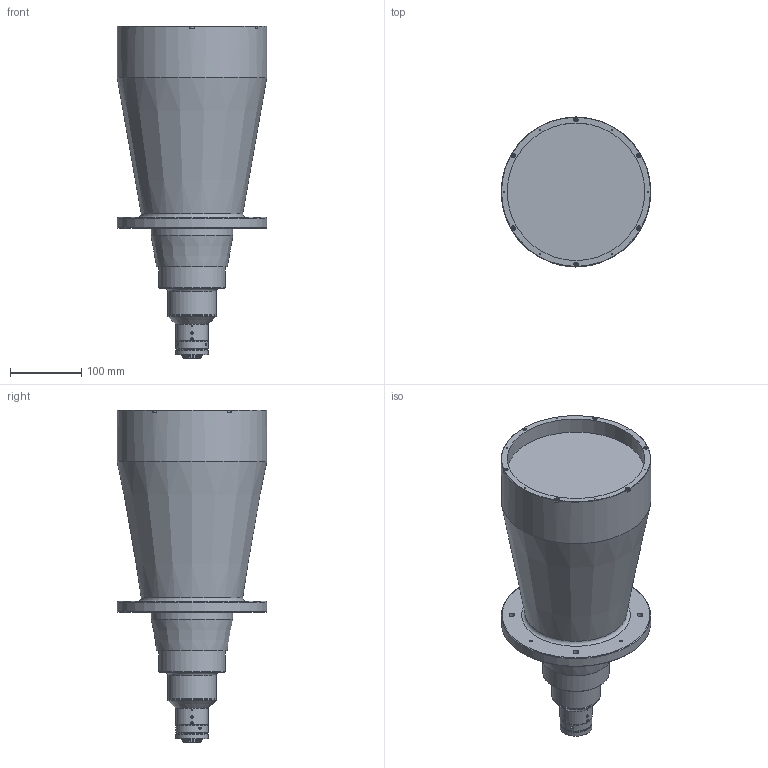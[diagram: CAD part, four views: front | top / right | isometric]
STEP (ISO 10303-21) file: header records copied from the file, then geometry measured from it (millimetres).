
FILE_DESCRIPTION (( 'STEP AP203' ), '1' );
FILE_NAME ('3d_mtl-18011C-006_a006.STEP', '2017-06-20T01:01:53', ( '' ), ( '' ), 'SwSTEP 2.0', 'SolidWorks 2014', '' );
FILE_SCHEMA (( 'CONFIG_CONTROL_DESIGN' ));
Length unit declared in the file: millimetre
Products named in the file (1): 3d_mtl-18011C-006_a006
Bounding box: 210 x 210 x 465.82 mm (x, y, z)
Volume: 8106656.4 mm3; surface area: 314245.4 mm2
Topology: 1 solids, 12 shells, 807 faces, 1859 edges, 1135 vertices
Faces by surface type: plane 481, cone 197, cylinder 86, torus 31, sphere 8, bspline 4
Full cylindrical faces by diameter (mm): 1.5 x6, 1.6 x4, 2.5 x3, 3.5 x8, 3.6 x3, 3.8 x3, 4.2 x4, 4.4 x3, 5.5 x10, 6.5 x4, 8 x4, 16.5 x1, 20 x1, 21.5 x1, 22.5 x1, 24 x1, 24.5 x1, 24.7 x1, 25 x1, 25.4 x1, 27 x1, 30 x2, 44 x1, 45 x2, 46 x1, 68 x2, 83 x1, 93 x1, 115 x1, 135 x1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
Entity records: 22030 total; most frequent: CARTESIAN_POINT 4891, DIRECTION 3673, ORIENTED_EDGE 3172, EDGE_CURVE 1586, AXIS2_PLACEMENT_3D 1470, EDGE_LOOP 1090, VERTEX_POINT 1054, FACE_OUTER_BOUND 923
